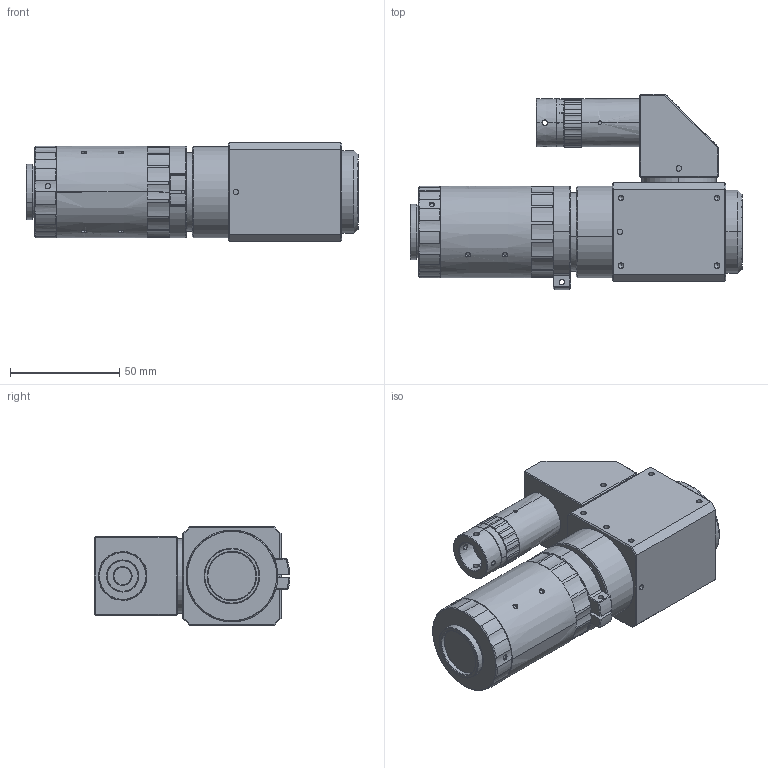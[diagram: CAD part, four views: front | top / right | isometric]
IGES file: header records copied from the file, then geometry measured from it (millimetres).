
Start section: SolidWorks IGES file using analytic representation for surfaces
Global section: file name: C:\Users\gc\Desktop\未完成工作堆放区\076\发客户3D\TUL200-076CL-111.IGS; native system: SolidWorks 2017; preprocessor: SolidWorks 2017; author: gc; date: 231107.154646; units: millimetre
Bounding box: 152.03 x 89.49 x 45 mm (x, y, z)
Surface area: 46056.1 mm2 (no closed solid volume)
Topology: 0 solids, 0 shells, 893 faces, 12037 edges, 12013 vertices
Faces by surface type: revolution 563, bspline 330
